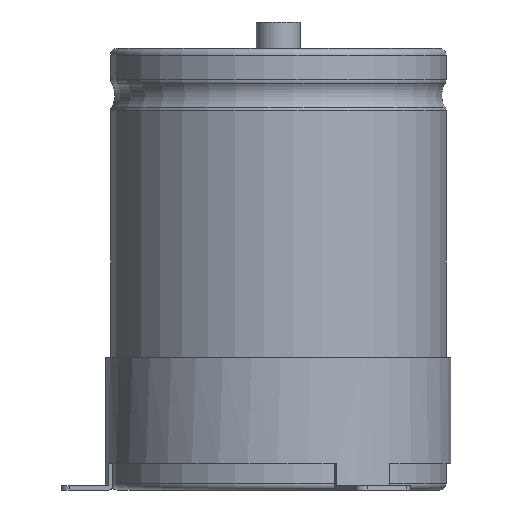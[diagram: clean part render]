
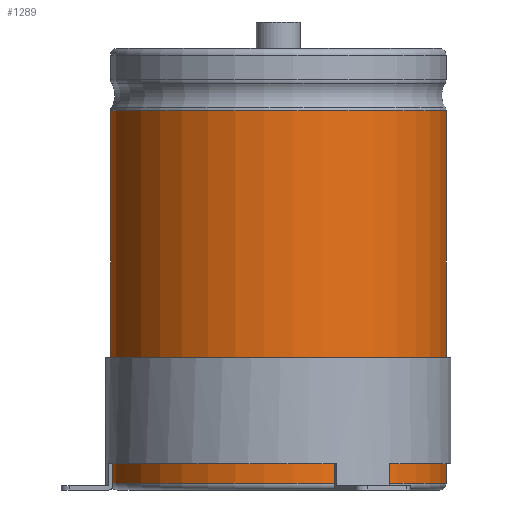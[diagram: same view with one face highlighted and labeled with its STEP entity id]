
A CAD part, front view. The second image highlights one B-rep face of the part: STEP entity #1289.
In plain terms, the highlighted cylindrical face has radius 38.1 mm (diameter 76.2 mm), a partial arc.
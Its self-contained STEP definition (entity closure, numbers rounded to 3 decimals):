
#233=LINE('',#6601,#447);
#234=LINE('',#6605,#448);
#447=VECTOR('',#5224,1.);
#448=VECTOR('',#5227,1.);
#695=FACE_OUTER_BOUND('',#1741,.T.);
#1289=ADVANCED_FACE('',(#695),#1519,.T.);
#1519=CYLINDRICAL_SURFACE('',#4585,38.1);
#1741=EDGE_LOOP('',(#2147,#2148,#2149,#2150));
#2147=ORIENTED_EDGE('',*,*,#3702,.T.);
#2148=ORIENTED_EDGE('',*,*,#3703,.T.);
#2149=ORIENTED_EDGE('',*,*,#3704,.F.);
#2150=ORIENTED_EDGE('',*,*,#3705,.F.);
#3274=VERTEX_POINT('',#6594);
#3276=VERTEX_POINT('',#6598);
#3277=VERTEX_POINT('',#6602);
#3278=VERTEX_POINT('',#6604);
#3702=EDGE_CURVE('',#3274,#3276,#4267,.T.);
#3703=EDGE_CURVE('',#3276,#3277,#233,.T.);
#3704=EDGE_CURVE('',#3278,#3277,#4268,.T.);
#3705=EDGE_CURVE('',#3274,#3278,#234,.T.);
#4267=CIRCLE('',#4582,38.1);
#4268=CIRCLE('',#4584,38.1);
#4582=AXIS2_PLACEMENT_3D('',#6599,#5220,#5221);
#4584=AXIS2_PLACEMENT_3D('',#6603,#5225,#5226);
#4585=AXIS2_PLACEMENT_3D('',#6606,#5228,#5229);
#5220=DIRECTION('',(0.,0.,-1.));
#5221=DIRECTION('',(0.,1.,0.));
#5224=DIRECTION('',(0.,0.,-1.));
#5225=DIRECTION('',(0.,0.,-1.));
#5226=DIRECTION('',(0.,1.,0.));
#5227=DIRECTION('',(0.,0.,-1.));
#5228=DIRECTION('',(0.,0.,-1.));
#5229=DIRECTION('',(0.,1.,0.));
#6594=CARTESIAN_POINT('',(3.983,37.891,85.9));
#6598=CARTESIAN_POINT('',(-3.983,37.891,85.9));
#6599=CARTESIAN_POINT('',(0.,0.,85.9));
#6601=CARTESIAN_POINT('',(-3.983,37.891,85.9));
#6602=CARTESIAN_POINT('',(-3.983,37.891,1.5));
#6603=CARTESIAN_POINT('',(0.,0.,1.5));
#6604=CARTESIAN_POINT('',(3.983,37.891,1.5));
#6605=CARTESIAN_POINT('',(3.983,37.891,85.9));
#6606=CARTESIAN_POINT('',(0.,0.,0.));
